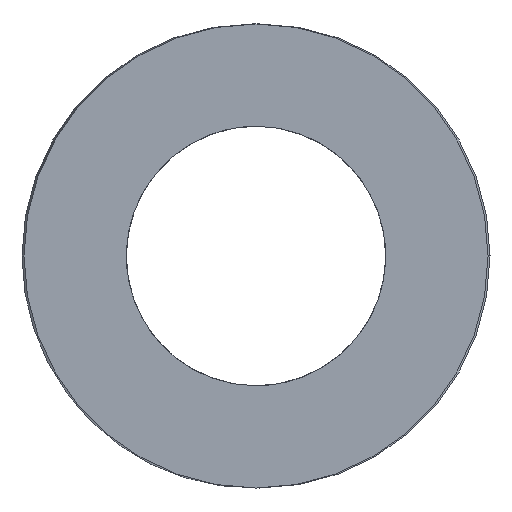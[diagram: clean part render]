
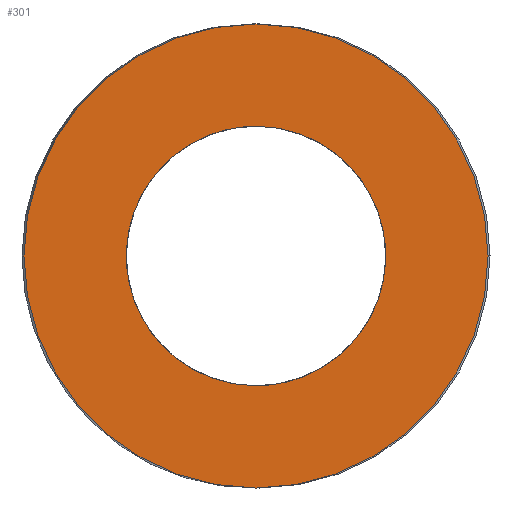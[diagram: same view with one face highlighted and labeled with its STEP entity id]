
A CAD part, left-side view. The second image highlights one B-rep face of the part: STEP entity #301.
In plain terms, the highlighted planar face has unit normal (-1, 0, 0).
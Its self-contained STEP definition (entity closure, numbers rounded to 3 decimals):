
#63=CARTESIAN_POINT('Vertex',(0.,12.25,0.)) ;
#77=CARTESIAN_POINT('Vertex',(0.,-12.25,0.)) ;
#80=CARTESIAN_POINT('Axis2P3D Location',(0.,0.,0.)) ;
#97=CARTESIAN_POINT('Axis2P3D Location',(0.,0.,0.)) ;
#232=CARTESIAN_POINT('Axis2P3D Location',(0.,6.125,0.)) ;
#242=CARTESIAN_POINT('Control Point',(0.,0.,-6.85)) ;
#243=CARTESIAN_POINT('Control Point',(0.,0.641,-6.85)) ;
#244=CARTESIAN_POINT('Control Point',(0.,1.282,-6.775)) ;
#245=CARTESIAN_POINT('Control Point',(0.,1.912,-6.625)) ;
#246=CARTESIAN_POINT('Control Point',(0.,3.124,-6.181)) ;
#247=CARTESIAN_POINT('Control Point',(0.,4.2,-5.468)) ;
#248=CARTESIAN_POINT('Control Point',(0.,4.694,-5.051)) ;
#249=CARTESIAN_POINT('Control Point',(0.,5.576,-4.107)) ;
#250=CARTESIAN_POINT('Control Point',(0.,6.215,-2.986)) ;
#251=CARTESIAN_POINT('Control Point',(0.,6.468,-2.39)) ;
#252=CARTESIAN_POINT('Control Point',(0.,6.829,-1.151)) ;
#253=CARTESIAN_POINT('Control Point',(0.,6.894,0.139)) ;
#254=CARTESIAN_POINT('Control Point',(0.,6.851,0.784)) ;
#255=CARTESIAN_POINT('Control Point',(0.,6.614,2.053)) ;
#256=CARTESIAN_POINT('Control Point',(0.,6.09,3.233)) ;
#257=CARTESIAN_POINT('Control Point',(0.,5.76,3.79)) ;
#258=CARTESIAN_POINT('Control Point',(0.,4.977,4.816)) ;
#259=CARTESIAN_POINT('Control Point',(0.,3.977,5.633)) ;
#260=CARTESIAN_POINT('Control Point',(0.,3.432,5.981)) ;
#261=CARTESIAN_POINT('Control Point',(0.,2.436,6.462)) ;
#262=CARTESIAN_POINT('Control Point',(0.,1.368,6.735)) ;
#263=CARTESIAN_POINT('Control Point',(0.,0.915,6.812)) ;
#264=CARTESIAN_POINT('Control Point',(0.,0.457,6.85)) ;
#265=CARTESIAN_POINT('Control Point',(0.,0.,6.85)) ;
#266=CARTESIAN_POINT('Vertex',(0.,0.,-6.85)) ;
#268=CARTESIAN_POINT('Vertex',(0.,0.,6.85)) ;
#272=CARTESIAN_POINT('Control Point',(0.,0.,6.85)) ;
#273=CARTESIAN_POINT('Control Point',(0.,-0.641,6.85)) ;
#274=CARTESIAN_POINT('Control Point',(0.,-1.282,6.775)) ;
#275=CARTESIAN_POINT('Control Point',(0.,-1.912,6.625)) ;
#276=CARTESIAN_POINT('Control Point',(0.,-3.124,6.181)) ;
#277=CARTESIAN_POINT('Control Point',(0.,-4.2,5.468)) ;
#278=CARTESIAN_POINT('Control Point',(0.,-4.694,5.051)) ;
#279=CARTESIAN_POINT('Control Point',(0.,-5.576,4.107)) ;
#280=CARTESIAN_POINT('Control Point',(0.,-6.215,2.986)) ;
#281=CARTESIAN_POINT('Control Point',(0.,-6.468,2.39)) ;
#282=CARTESIAN_POINT('Control Point',(0.,-6.829,1.151)) ;
#283=CARTESIAN_POINT('Control Point',(0.,-6.894,-0.139)) ;
#284=CARTESIAN_POINT('Control Point',(0.,-6.851,-0.784)) ;
#285=CARTESIAN_POINT('Control Point',(0.,-6.614,-2.053)) ;
#286=CARTESIAN_POINT('Control Point',(0.,-6.09,-3.233)) ;
#287=CARTESIAN_POINT('Control Point',(0.,-5.76,-3.79)) ;
#288=CARTESIAN_POINT('Control Point',(0.,-4.977,-4.816)) ;
#289=CARTESIAN_POINT('Control Point',(0.,-3.977,-5.633)) ;
#290=CARTESIAN_POINT('Control Point',(0.,-3.432,-5.981)) ;
#291=CARTESIAN_POINT('Control Point',(0.,-2.436,-6.462)) ;
#292=CARTESIAN_POINT('Control Point',(0.,-1.368,-6.735)) ;
#293=CARTESIAN_POINT('Control Point',(0.,-0.915,-6.812)) ;
#294=CARTESIAN_POINT('Control Point',(0.,-0.457,-6.85)) ;
#295=CARTESIAN_POINT('Control Point',(0.,0.,-6.85)) ;
#81=DIRECTION('Axis2P3D Direction',(1.,-0.,0.)) ;
#98=DIRECTION('Axis2P3D Direction',(1.,-0.,0.)) ;
#233=DIRECTION('Axis2P3D Direction',(-1.,0.,0.)) ;
#234=DIRECTION('Axis2P3D XDirection',(0.,1.,0.)) ;
#82=AXIS2_PLACEMENT_3D('Circle Axis2P3D',#80,#81,$) ;
#99=AXIS2_PLACEMENT_3D('Circle Axis2P3D',#97,#98,$) ;
#235=AXIS2_PLACEMENT_3D('Plane Axis2P3D',#232,#233,#234) ;
#238=ORIENTED_EDGE('',*,*,#84,.T.) ;
#239=ORIENTED_EDGE('',*,*,#101,.T.) ;
#298=ORIENTED_EDGE('',*,*,#270,.T.) ;
#299=ORIENTED_EDGE('',*,*,#296,.T.) ;
#300=FACE_BOUND('',#297,.T.) ;
#301=ADVANCED_FACE('392-B25-089',(#240,#300),#236,.T.) ;
#241=B_SPLINE_CURVE_WITH_KNOTS('',5,(#242,#243,#244,#245,#246,#247,#248,#249,#250,#251,#252,#253,#254,#255,#256,#257,#258,#259,#260,#261,#262,#263,#264,#265),.UNSPECIFIED.,.F.,.U.,(6,3,3,3,3,3,3,6),(0.,4.533,9.066,13.6,18.133,22.666,27.199,30.433),.UNSPECIFIED.) ;
#271=B_SPLINE_CURVE_WITH_KNOTS('',5,(#272,#273,#274,#275,#276,#277,#278,#279,#280,#281,#282,#283,#284,#285,#286,#287,#288,#289,#290,#291,#292,#293,#294,#295),.UNSPECIFIED.,.F.,.U.,(6,3,3,3,3,3,3,6),(0.,4.533,9.066,13.6,18.133,22.666,27.199,30.433),.UNSPECIFIED.) ;
#83=CIRCLE('generated circle',#82,12.25) ;
#100=CIRCLE('generated circle',#99,12.25) ;
#84=EDGE_CURVE('',#64,#78,#83,.F.) ;
#101=EDGE_CURVE('',#78,#64,#100,.F.) ;
#270=EDGE_CURVE('',#267,#269,#241,.T.) ;
#296=EDGE_CURVE('',#269,#267,#271,.T.) ;
#237=EDGE_LOOP('',(#238,#239)) ;
#297=EDGE_LOOP('',(#298,#299)) ;
#240=FACE_OUTER_BOUND('',#237,.T.) ;
#236=PLANE('Plane',#235) ;
#64=VERTEX_POINT('',#63) ;
#78=VERTEX_POINT('',#77) ;
#267=VERTEX_POINT('',#266) ;
#269=VERTEX_POINT('',#268) ;
